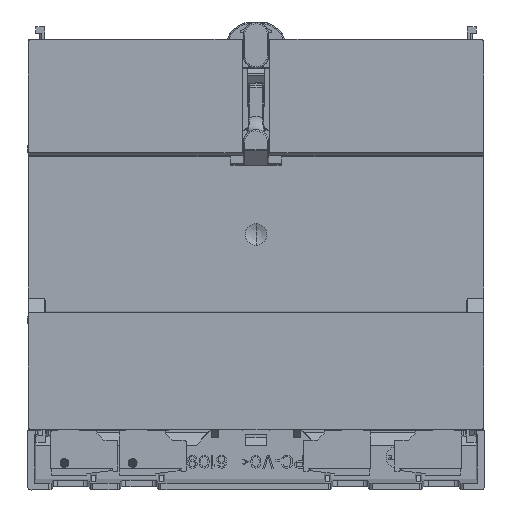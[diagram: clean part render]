
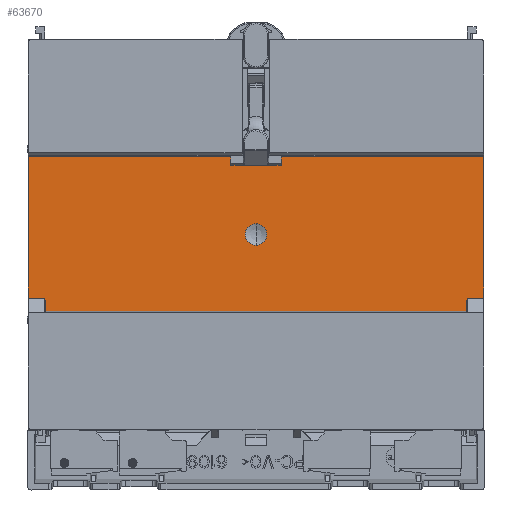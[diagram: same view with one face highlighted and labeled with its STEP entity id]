
A CAD part, front view. The second image highlights one B-rep face of the part: STEP entity #63670.
In plain terms, the highlighted planar face has unit normal (0, -1, 0).
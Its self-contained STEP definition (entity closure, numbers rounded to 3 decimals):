
#3487=DIRECTION('',(1.,0.,0.));
#3488=VECTOR('',#3487,46.645);
#3489=CARTESIAN_POINT('',(-52.5,-33.2,18.051));
#3490=LINE('',#3489,#3488);
#3593=CARTESIAN_POINT('',(0.,-33.2,0.));
#3594=DIRECTION('',(0.,1.,0.));
#3595=DIRECTION('',(0.,0.,1.));
#3596=AXIS2_PLACEMENT_3D('',#3593,#3594,#3595);
#3598=CARTESIAN_POINT('',(0.,-33.2,0.));
#3599=DIRECTION('',(0.,1.,0.));
#3600=DIRECTION('',(0.,0.,-1.));
#3601=AXIS2_PLACEMENT_3D('',#3598,#3599,#3600);
#3631=DIRECTION('',(0.,0.,-1.));
#3632=VECTOR('',#3631,0.652);
#3633=CARTESIAN_POINT('',(5.8,-33.2,18.05));
#3634=LINE('',#3633,#3632);
#3635=DIRECTION('',(-1.,0.,0.));
#3636=VECTOR('',#3635,46.645);
#3637=CARTESIAN_POINT('',(52.5,-33.2,18.051));
#3638=LINE('',#3637,#3636);
#3639=DIRECTION('',(0.,0.,1.));
#3640=VECTOR('',#3639,35.701);
#3641=CARTESIAN_POINT('',(52.5,-33.2,-17.65));
#3642=LINE('',#3641,#3640);
#3643=DIRECTION('',(0.,0.,-1.));
#3644=VECTOR('',#3643,35.701);
#3645=CARTESIAN_POINT('',(-52.5,-33.2,18.051));
#3646=LINE('',#3645,#3644);
#3647=DIRECTION('',(0.,0.,1.));
#3648=VECTOR('',#3647,0.652);
#3649=CARTESIAN_POINT('',(-5.8,-33.2,17.398));
#3650=LINE('',#3649,#3648);
#3651=DIRECTION('',(1.,0.,0.));
#3652=VECTOR('',#3651,11.6);
#3653=CARTESIAN_POINT('',(-5.8,-33.2,17.398));
#3654=LINE('',#3653,#3652);
#5558=DIRECTION('',(1.,0.,0.004));
#5559=VECTOR('',#5558,0.055);
#5560=CARTESIAN_POINT('',(5.8,-33.2,18.05));
#5561=LINE('',#5560,#5559);
#5646=DIRECTION('',(-1.,0.,0.));
#5647=VECTOR('',#5646,105.);
#5648=CARTESIAN_POINT('',(52.5,-33.2,-17.65));
#5649=LINE('',#5648,#5647);
#5722=DIRECTION('',(1.,0.,-0.004));
#5723=VECTOR('',#5722,0.055);
#5724=CARTESIAN_POINT('',(-5.855,-33.2,
18.05));
#5725=LINE('',#5724,#5723);
#45781=CARTESIAN_POINT('',(-52.5,-33.2,18.051));
#45782=VERTEX_POINT('',#45781);
#45783=CARTESIAN_POINT('',(-52.5,-33.2,-17.65));
#45784=VERTEX_POINT('',#45783);
#45957=CARTESIAN_POINT('',(52.5,-33.2,-17.65));
#45958=VERTEX_POINT('',#45957);
#45959=CARTESIAN_POINT('',(52.5,-33.2,18.051));
#45960=VERTEX_POINT('',#45959);
#45977=CARTESIAN_POINT('',(5.855,-33.2,
18.05));
#45978=VERTEX_POINT('',#45977);
#45987=CARTESIAN_POINT('',(-5.855,-33.2,
18.05));
#45988=VERTEX_POINT('',#45987);
#45989=CARTESIAN_POINT('',(0.,-33.2,-2.5));
#45990=CARTESIAN_POINT('',(0.,-33.2,2.5));
#45991=VERTEX_POINT('',#45989);
#45992=VERTEX_POINT('',#45990);
#55788=CARTESIAN_POINT('',(5.8,-33.2,18.05));
#55789=CARTESIAN_POINT('',(5.8,-33.2,17.398));
#55790=VERTEX_POINT('',#55788);
#55791=VERTEX_POINT('',#55789);
#55811=CARTESIAN_POINT('',(-5.8,-33.2,17.398));
#55812=VERTEX_POINT('',#55811);
#55813=CARTESIAN_POINT('',(-5.8,-33.2,18.05));
#55814=VERTEX_POINT('',#55813);
#63640=CARTESIAN_POINT('',(-63.,-33.2,-17.65));
#63641=DIRECTION('',(0.,1.,0.));
#63642=DIRECTION('',(0.,0.,1.));
#63643=AXIS2_PLACEMENT_3D('',#63640,#63641,#63642);
#63644=PLANE('',#63643);
#63646=ORIENTED_EDGE('',*,*,#63645,.F.);
#63648=ORIENTED_EDGE('',*,*,#63647,.T.);
#63650=ORIENTED_EDGE('',*,*,#63649,.F.);
#63651=ORIENTED_EDGE('',*,*,#62952,.F.);
#63653=ORIENTED_EDGE('',*,*,#63652,.T.);
#63654=ORIENTED_EDGE('',*,*,#60930,.F.);
#63655=ORIENTED_EDGE('',*,*,#63302,.T.);
#63657=ORIENTED_EDGE('',*,*,#63656,.T.);
#63659=ORIENTED_EDGE('',*,*,#63658,.F.);
#63661=ORIENTED_EDGE('',*,*,#63660,.T.);
#63662=EDGE_LOOP('',(#63646,#63648,#63650,#63651,#63653,#63654,#63655,#63657,
#63659,#63661));
#63663=FACE_OUTER_BOUND('',#63662,.F.);
#63665=ORIENTED_EDGE('',*,*,#63664,.F.);
#63667=ORIENTED_EDGE('',*,*,#63666,.F.);
#63668=EDGE_LOOP('',(#63665,#63667));
#63669=FACE_BOUND('',#63668,.F.);
#3597=CIRCLE('',#3596,2.5);
#3602=CIRCLE('',#3601,2.5);
#60930=EDGE_CURVE('',#45782,#45784,#3646,.T.);
#62952=EDGE_CURVE('',#45958,#45960,#3642,.T.);
#63302=EDGE_CURVE('',#45782,#45988,#3490,.T.);
#63645=EDGE_CURVE('',#55790,#55791,#3634,.T.);
#63647=EDGE_CURVE('',#55790,#45978,#5561,.T.);
#63649=EDGE_CURVE('',#45960,#45978,#3638,.T.);
#63652=EDGE_CURVE('',#45958,#45784,#5649,.T.);
#63656=EDGE_CURVE('',#45988,#55814,#5725,.T.);
#63658=EDGE_CURVE('',#55812,#55814,#3650,.T.);
#63660=EDGE_CURVE('',#55812,#55791,#3654,.T.);
#63664=EDGE_CURVE('',#45992,#45991,#3597,.T.);
#63666=EDGE_CURVE('',#45991,#45992,#3602,.T.);
#63670=ADVANCED_FACE('',(#63663,#63669),#63644,.F.);
